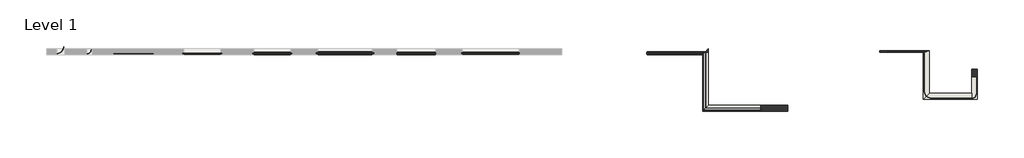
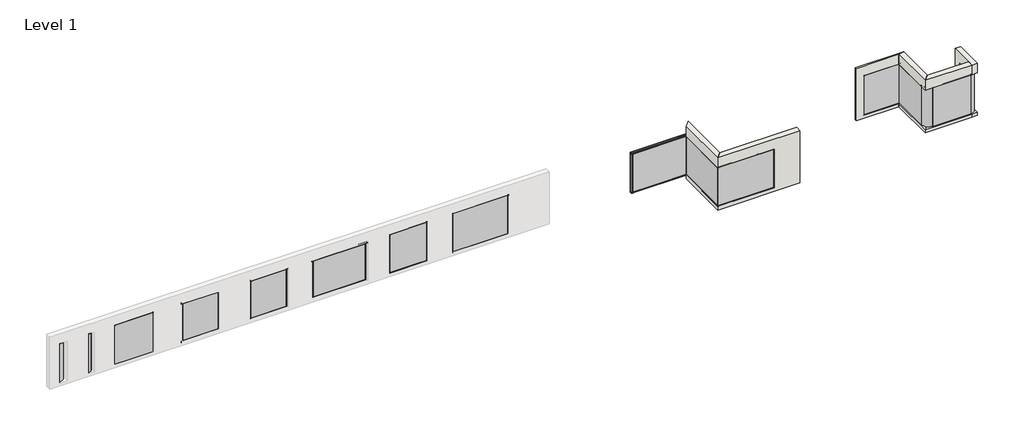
# One storey, part 2 of 2: 17 proxies, 6 walls.
"""IFC4 building model written with IfcOpenShell, lengths in millimetres."""

from ifc_helpers import new_model, si_unit, frame, origin, place, context, project, spatial, polyline, circle_curve, faceted_brep, transform, mapped, element, save
from ifc_brep_helpers import plane_surface, cylinder_surface, revolved_surface, advanced_brep
from components import specialty_equipment_907c0885, specialty_equipment_b6fd1aad, specialty_equipment_06bde316, specialty_equipment_94f7accb, specialty_equipment_4cefd5af, specialty_equipment_d6773d0d, specialty_equipment_c5b3c8d2, specialty_equipment_2e273301, specialty_equipment_d781054c, specialty_equipment_84c0f78b, specialty_equipment_ac06c7cd, specialty_equipment_aaa6b72d, radius_300_mm_c486e831, radius_440_mm_d872920d

model = new_model("IFC4")

# Units and contexts
model_context = context("Model", 3, world=origin())
ifc_project = project(units=[si_unit("LENGTHUNIT", "METRE", prefix="MILLI")], contexts=[model_context])

# Site, building, storey
site = spatial("IfcSite", under=ifc_project)
building = spatial("IfcBuilding", under=site)
storey = spatial("IfcBuildingStorey", under=building, Name="Level 1", Elevation=0.0)

# Proxies
placement = place(None, origin())
specialty_equipment_shape = specialty_equipment_907c0885(model_context)
element("IfcBuildingElementProxy", 1, Name="Specialy Equipment_Blindspace_Custom-Pockets-for-Roller-Blinds : 2400 mm x 2600 mm with Custom Box", ObjectType="Specialy Equipment_Blindspace_Custom-Pockets-for-Roller-Blinds : 2400 mm x 2600 mm with Custom Box", at=placement, inside=storey, context=model_context, shape_type="MappedRepresentation", body=[
    mapped(specialty_equipment_shape, transform((-20072.0824741, 7342.6185098, 1500.0), x_axis=(1.0, 0.0, 0.0), y_axis=(0.0, 0.0, 1.0), z_axis=(0.0, -1.0, 0.0))),
])
specialty_equipment_2_shape = specialty_equipment_b6fd1aad(model_context)
element("IfcBuildingElementProxy", 2, Name="Specialy Equipment_Blindspace_TrackTrim-Click-to-Recess-Curtain-Tracks-Straight-Track : 2400 mm x 2600 mm", ObjectType="Specialy Equipment_Blindspace_TrackTrim-Click-to-Recess-Curtain-Tracks-Straight-Track : 2400 mm x 2600 mm", at=placement, inside=storey, context=model_context, shape_type="MappedRepresentation", body=[
    mapped(specialty_equipment_2_shape, transform((-24172.0824741, 7342.6185098, 1500.0), x_axis=(1.0, 0.0, 0.0), y_axis=(0.0, 0.0, 1.0), z_axis=(0.0, -1.0, 0.0))),
])
specialty_equipment_3_shape = specialty_equipment_06bde316(model_context)
element("IfcBuildingElementProxy", 3, Name="Specialy Equipment_Blindspace_TrackTrim-Click-to-Recess-Curtain-Tracks-Straight-Track : 2400 mm x 2600 mm", ObjectType="Specialy Equipment_Blindspace_TrackTrim-Click-to-Recess-Curtain-Tracks-Straight-Track : 2400 mm x 2600 mm", at=placement, inside=storey, context=model_context, shape_type="MappedRepresentation", body=[
    mapped(specialty_equipment_3_shape, transform((22072.9175259, 7472.6185098, 1500.0), x_axis=(1.0, 0.0, 0.0), y_axis=(0.0, 0.0, 1.0), z_axis=(0.0, -1.0, 0.0))),
])
element("IfcBuildingElementProxy", 4, Name="Specialy Equipment_Blindspace_TrackTrim-Click-to-Recess-Curtain-Tracks-Straight-Track : 2400 mm x 2600 mm", ObjectType="Specialy Equipment_Blindspace_TrackTrim-Click-to-Recess-Curtain-Tracks-Straight-Track : 2400 mm x 2600 mm", at=placement, inside=storey, context=model_context, shape_type="MappedRepresentation", body=[
    mapped(specialty_equipment_2_shape, transform((24737.9175259, 4677.6185098, 1500.0), x_axis=(1.0, 0.0, 0.0), y_axis=(0.0, 0.0, 1.0), z_axis=(0.0, -1.0, 0.0))),
])
specialty_equipment_4_shape = specialty_equipment_94f7accb(model_context)
element("IfcBuildingElementProxy", 5, Name="Specialy Equipment_Blindspace_TrackTrim-Click-to-Recess-Curtain-Tracks-Straight-Track : 2400 mm x 2600 mm", ObjectType="Specialy Equipment_Blindspace_TrackTrim-Click-to-Recess-Curtain-Tracks-Straight-Track : 2400 mm x 2600 mm", at=placement, inside=storey, context=model_context, shape_type="MappedRepresentation", body=[
    mapped(specialty_equipment_4_shape, transform((23052.9175259, 6362.6185098, 1500.0), x_axis=(0.0, -1.0, 0.0), y_axis=(0.0, 0.0, 1.0), z_axis=(-1.0, 0.0, 0.0))),
])
specialty_equipment_5_shape = specialty_equipment_4cefd5af(model_context)
element("IfcBuildingElementProxy", 6, Name="Specialy Equipment_Blindspace_TrackTrim-Click-to-Recess-Curtain-Tracks-Straight-Track : 2400 mm x 2600 mm", ObjectType="Specialy Equipment_Blindspace_TrackTrim-Click-to-Recess-Curtain-Tracks-Straight-Track : 2400 mm x 2600 mm", at=placement, inside=storey, context=model_context, shape_type="MappedRepresentation", body=[
    mapped(specialty_equipment_5_shape, transform((26282.9175259, 5522.6185098, 1500.0), x_axis=(0.0, 1.0, 0.0), y_axis=(0.0, 0.0, 1.0), z_axis=(1.0, 0.0, 0.0))),
])
specialty_equipment_6_shape = specialty_equipment_d6773d0d(model_context)
element("IfcBuildingElementProxy", 7, Name="Specialy Equipment_Blindspace_Standard-Pockets-for-Roller-Blinds : 3500 mm x 2600 mm with 130 x 130 mm Box", ObjectType="Specialy Equipment_Blindspace_Standard-Pockets-for-Roller-Blinds : 3500 mm x 2600 mm with 130 x 130 mm Box", at=placement, inside=storey, context=model_context, shape_type="MappedRepresentation", body=[
    mapped(specialty_equipment_6_shape, transform((-2822.0824741, 7342.6185098, 1500.0), x_axis=(1.0, 0.0, 0.0), y_axis=(0.0, 0.0, 1.0), z_axis=(0.0, -1.0, 0.0))),
])
specialty_equipment_7_shape = specialty_equipment_c5b3c8d2(model_context)
element("IfcBuildingElementProxy", 8, Name="Specialy Equipment_Blindspace_Standard-Pockets-for-Roller-Blinds : 2400 mm x 2600 mm with 100 x 100 mm Box", ObjectType="Specialy Equipment_Blindspace_Standard-Pockets-for-Roller-Blinds : 2400 mm x 2600 mm with 100 x 100 mm Box", at=placement, inside=storey, context=model_context, shape_type="MappedRepresentation", body=[
    mapped(specialty_equipment_7_shape, transform((-7272.0824741, 7342.6185098, 1500.0), x_axis=(1.0, 0.0, 0.0), y_axis=(0.0, 0.0, 1.0), z_axis=(0.0, -1.0, 0.0))),
])
specialty_equipment_8_shape = specialty_equipment_2e273301(model_context)
element("IfcBuildingElementProxy", 9, Name="Specialy Equipment_Blindspace_Standard-Pockets-for-Roller-Blinds : 3500 mm x 2600 mm with 130 x 130 mm Box", ObjectType="Specialy Equipment_Blindspace_Standard-Pockets-for-Roller-Blinds : 3500 mm x 2600 mm with 130 x 130 mm Box", at=placement, inside=storey, context=model_context, shape_type="MappedRepresentation", body=[
    mapped(specialty_equipment_8_shape, transform((-11522.0824741, 7342.6185098, 1500.0), x_axis=(1.0, 0.0, 0.0), y_axis=(0.0, 0.0, 1.0), z_axis=(0.0, -1.0, 0.0))),
])
specialty_equipment_9_shape = specialty_equipment_d781054c(model_context)
element("IfcBuildingElementProxy", 10, Name="Specialy Equipment_Blindspace_Standard-Pockets-for-Roller-Blinds : 2400 mm x 2600 mm with 100 x 100 mm Box", ObjectType="Specialy Equipment_Blindspace_Standard-Pockets-for-Roller-Blinds : 2400 mm x 2600 mm with 100 x 100 mm Box", at=placement, inside=storey, context=model_context, shape_type="MappedRepresentation", body=[
    mapped(specialty_equipment_9_shape, transform((-15872.0824741, 7342.6185098, 1500.0), x_axis=(1.0, 0.0, 0.0), y_axis=(0.0, 0.0, 1.0), z_axis=(0.0, -1.0, 0.0))),
])
specialty_equipment_10_shape = specialty_equipment_84c0f78b(model_context)
element("IfcBuildingElementProxy", 11, Name="Specialy Equipment_Blindspace_Standard-Pockets-for-Roller-Blinds : 3500 mm x 2600 mm with 130 x 130 mm Box", ObjectType="Specialy Equipment_Blindspace_Standard-Pockets-for-Roller-Blinds : 3500 mm x 2600 mm with 130 x 130 mm Box", at=placement, inside=storey, context=model_context, shape_type="MappedRepresentation", body=[
    mapped(specialty_equipment_10_shape, transform((11627.9175259, 3972.6185098, 1500.0), x_axis=(1.0, 0.0, 0.0), y_axis=(0.0, 0.0, 1.0), z_axis=(0.0, -1.0, 0.0))),
])
specialty_equipment_11_shape = specialty_equipment_ac06c7cd(model_context)
element("IfcBuildingElementProxy", 12, Name="Specialy Equipment_Blindspace_Standard-Pockets-for-Roller-Blinds : 3500 mm x 2600 mm with 130 x 130 mm Box", ObjectType="Specialy Equipment_Blindspace_Standard-Pockets-for-Roller-Blinds : 3500 mm x 2600 mm with 130 x 130 mm Box", at=placement, inside=storey, context=model_context, shape_type="MappedRepresentation", body=[
    mapped(specialty_equipment_11_shape, transform((9852.9175259, 5747.6185098, 1500.0), x_axis=(0.0, -1.0, 0.0), y_axis=(0.0, 0.0, 1.0), z_axis=(-1.0, 0.0, 0.0))),
])
specialty_equipment_12_shape = specialty_equipment_aaa6b72d(model_context)
element("IfcBuildingElementProxy", 13, Name="Specialy Equipment_Blindspace_Standard-Pockets-for-Roller-Blinds : 3500 mm x 2600 mm with 130 x 130 mm Box", ObjectType="Specialy Equipment_Blindspace_Standard-Pockets-for-Roller-Blinds : 3500 mm x 2600 mm with 130 x 130 mm Box", at=placement, inside=storey, context=model_context, shape_type="MappedRepresentation", body=[
    mapped(specialty_equipment_12_shape, transform((8257.9386944, 7342.6185098, 1500.0), x_axis=(1.0, 0.0, 0.0), y_axis=(0.0, 0.0, 1.0), z_axis=(0.0, -1.0, 0.0))),
])
radius_300_mm_shape = radius_300_mm_c486e831(model_context)
element("IfcBuildingElementProxy", 14, Name="Specialy Equipment_Blindspace_TrackTrim-Click-to-Recess-Curtain-Tracks-90-Degree-Bend : Radius 300 mm", ObjectType="Specialy Equipment_Blindspace_TrackTrim-Click-to-Recess-Curtain-Tracks-90-Degree-Bend : Radius 300 mm", at=placement, inside=storey, context=model_context, shape_type="MappedRepresentation", body=[
    mapped(radius_300_mm_shape, transform((26110.4175259, 4677.6185098, 1500.0), x_axis=(1.0, 0.0, 0.0), y_axis=(0.0, 0.0, 1.0), z_axis=(0.0, -1.0, 0.0))),
])
element("IfcBuildingElementProxy", 15, Name="Specialy Equipment_Blindspace_TrackTrim-Click-to-Recess-Curtain-Tracks-90-Degree-Bend : Radius 300 mm", ObjectType="Specialy Equipment_Blindspace_TrackTrim-Click-to-Recess-Curtain-Tracks-90-Degree-Bend : Radius 300 mm", at=placement, inside=storey, context=model_context, shape_type="MappedRepresentation", body=[
    mapped(radius_300_mm_shape, transform((-26799.5824741, 7342.6185098, 1500.0), x_axis=(1.0, 0.0, 0.0), y_axis=(0.0, 0.0, 1.0), z_axis=(0.0, -1.0, 0.0))),
])
radius_440_mm_shape = radius_440_mm_d872920d(model_context)
element("IfcBuildingElementProxy", 16, Name="Specialy Equipment_Blindspace_TrackTrim-Click-to-Recess-Curtain-Tracks-90-Degree-Bend : Radius 440 mm", ObjectType="Specialy Equipment_Blindspace_TrackTrim-Click-to-Recess-Curtain-Tracks-90-Degree-Bend : Radius 440 mm", at=placement, inside=storey, context=model_context, shape_type="MappedRepresentation", body=[
    mapped(radius_440_mm_shape, transform((23052.9175259, 4920.1185098, 1500.0), x_axis=(0.0, -1.0, 0.0), y_axis=(0.0, 0.0, 1.0), z_axis=(-1.0, 0.0, 0.0))),
])
element("IfcBuildingElementProxy", 17, Name="Specialy Equipment_Blindspace_TrackTrim-Click-to-Recess-Curtain-Tracks-90-Degree-Bend : Radius 440 mm", ObjectType="Specialy Equipment_Blindspace_TrackTrim-Click-to-Recess-Curtain-Tracks-90-Degree-Bend : Radius 440 mm", at=placement, inside=storey, context=model_context, shape_type="MappedRepresentation", body=[
    mapped(radius_440_mm_shape, transform((-28529.5824741, 7342.6185098, 1500.0), x_axis=(1.0, 0.0, 0.0), y_axis=(0.0, 0.0, 1.0), z_axis=(0.0, -1.0, 0.0))),
])

# Walls
element("IfcWall", 18, ObjectType="Exterior - Brick on Mtl. Stud", at=placement, inside=storey, context=model_context, shape_type="Brep", body=[
    faceted_brep([(9852.9175259, 7342.6185098, 0.0), (9852.9175259, 3972.6185098, 0.0), (9852.9175259, 3972.6185098, 247.2480948), (9852.9175259, 3997.6185098, 247.2480948), (9852.9175259, 3997.6185098, 245.8), (9852.9175259, 7342.6185098, 245.8), (9852.9175259, 3972.6185098, 3397.25), (9852.9175259, 7342.6185098, 3397.25), (9852.9175259, 7342.6185098, 2754.2), (9852.9175259, 3997.6185098, 2754.2), (9852.9175259, 3997.6185098, 2752.7519052), (9852.9175259, 3972.6185098, 2752.7519052), (10202.9175259, 4322.6185098, 0.0), (10202.9175259, 7692.6185098, 0.0), (10202.9175259, 7692.6185098, 3397.25), (10202.9175259, 4322.6185098, 3397.25), (10202.9175259, 4322.6185098, 2754.2), (10202.9175259, 7497.6185098, 2754.2), (10202.9175259, 7497.6185098, 245.8), (10202.9175259, 4322.6185098, 245.8), (10007.9175259, 7497.6185098, 2754.2), (10007.9175259, 7497.6185098, 245.8), (9877.9175259, 3997.6185098, 2754.2), (9877.9175259, 3997.6185098, 2752.7519052), (9877.9175259, 3997.6185098, 245.8), (9877.9175259, 3997.6185098, 247.2480948), (9877.9175258, 3997.6185098, 2800.0), (9877.9175258, 7367.6185097, 2800.0), (10007.9175258, 7497.6185097, 2800.0), (10007.9175258, 4127.6185097, 2800.0), (10007.9175258, 4127.6185097, 2754.2), (10007.9175258, 4127.6185097, 245.8), (10007.9175258, 7497.6185097, 200.0), (10007.9175258, 4127.6185097, 200.0), (9877.9175258, 7367.6185097, 2754.2), (9877.9175258, 7367.6185097, 245.8), (9877.9175258, 3997.6185097, 200.0), (9877.9175258, 7367.6185097, 200.0)], [[[0, 1, 2, 3, 4, 5]], [[6, 7, 8, 9, 10, 11]], [[12, 13, 14, 15, 16, 17, 18, 19]], [[1, 0, 13, 12]], [[7, 6, 15, 14]], [[17, 20, 21, 18]], [[9, 22, 23, 10]], [[24, 4, 3, 25]], [[26, 27, 28, 29]], [[29, 28, 20, 30]], [[31, 21, 32, 33]], [[27, 26, 22, 34]], [[35, 24, 36, 37]], [[37, 36, 33, 32]], [[20, 17, 16, 30]], [[21, 31, 19, 18]], [[34, 22, 9, 8]], [[4, 24, 35, 5]], [[7, 14, 13, 0, 5, 35, 37, 32, 21, 20, 28, 27, 34, 8]], [[11, 10, 23]], [[3, 2, 25]], [[1, 12, 19, 31, 33, 36, 24, 25, 2]], [[15, 6, 11, 23, 22, 26, 29, 30, 16]]]),
])
element("IfcWall", 19, ObjectType="Exterior - Brick on Mtl. Stud", at=placement, inside=storey, context=model_context, shape_type="Brep", body=[
    faceted_brep([(9852.9175259, 3972.6185098, 0.0), (14927.9175259, 3972.6185098, 0.0), (14927.9175259, 3972.6185098, 3397.25), (9852.9175259, 3972.6185098, 3397.25), (9852.9175259, 3972.6185098, 2752.7519052), (9877.9175259, 3972.6185098, 2752.7519052), (9877.9175259, 3972.6185098, 2754.2), (13332.1175259, 3972.6185098, 2754.2), (13332.1175259, 3972.6185098, 245.8), (9877.9175259, 3972.6185098, 245.8), (9877.9175259, 3972.6185098, 247.2480948), (9852.9175259, 3972.6185098, 247.2480948), (14927.9175259, 4322.6185098, 0.0), (10202.9175259, 4322.6185098, 0.0), (10202.9175259, 4322.6185098, 245.8), (13332.1175259, 4322.6185098, 245.8), (13332.1175259, 4322.6185098, 2754.2), (10202.9175259, 4322.6185098, 2754.2), (10202.9175259, 4322.6185098, 3397.25), (14927.9175259, 4322.6185098, 3397.25), (9877.9175259, 3997.6185098, 2754.2), (9877.9175259, 3997.6185098, 2752.7519052), (9877.9175259, 3997.6185098, 245.8), (9877.9175259, 3997.6185098, 247.2480948), (13377.9175259, 3997.6185097, 2800.0), (13377.9175259, 4127.6185097, 2800.0), (13377.9175259, 4127.6185097, 200.0), (13377.9175259, 3997.6185097, 200.0), (9877.9175259, 3997.6185097, 2800.0), (10007.9175258, 4127.6185097, 2800.0), (10007.9175258, 4127.6185097, 2754.2), (13332.1175259, 4127.6185097, 2754.2), (13332.1175259, 4127.6185097, 245.8), (10007.9175258, 4127.6185097, 245.8), (10007.9175258, 4127.6185097, 200.0), (9877.9175259, 3997.6185097, 200.0), (13332.1175259, 3997.6185097, 245.8), (13332.1175259, 3997.6185097, 2754.2)], [[[0, 1, 2, 3, 4, 5, 6, 7, 8, 9, 10, 11]], [[12, 13, 14, 15, 16, 17, 18, 19]], [[1, 0, 13, 12]], [[2, 1, 12, 19]], [[3, 2, 19, 18]], [[20, 6, 5, 21]], [[9, 22, 23, 10]], [[24, 25, 26, 27]], [[25, 24, 28, 29]], [[26, 25, 29, 30, 31, 32, 33, 34]], [[24, 27, 35, 22, 36, 37, 20, 28]], [[27, 26, 34, 35]], [[31, 30, 17, 16]], [[33, 32, 15, 14]], [[32, 31, 16, 15]], [[20, 37, 7, 6]], [[36, 22, 9, 8]], [[37, 36, 8, 7]], [[11, 10, 23]], [[5, 4, 21]], [[13, 0, 11, 23, 22, 35, 34, 33, 14]], [[3, 18, 17, 30, 29, 28, 20, 21, 4]]]),
])
element("IfcWall", 20, ObjectType="Exterior - Brick on Mtl. Stud", at=placement, inside=storey, context=model_context, shape_type="SolidModel", body=[
    faceted_brep([(23052.9175259, 7472.6185098, 0.0), (23052.9175259, 4677.6185098, 0.0), (23052.9175259, 4677.6185098, 200.0), (23052.9175259, 7472.6185098, 200.0), (23402.9175259, 5027.6185098, 0.0), (23402.9175259, 7562.6185098, 0.0), (23402.9175259, 7562.6185098, 200.0), (23402.9175259, 5027.6185098, 200.0)], [[[0, 1, 2, 3]], [[4, 5, 6, 7]], [[1, 0, 5, 4]], [[1, 4, 7, 2]], [[5, 0, 3, 6]], [[2, 7, 6, 3]]]),
    advanced_brep(
    [(23052.9175259, 4677.6185098, 3397.25), (23052.9175259, 7472.6185098, 3397.25), (23052.9175259, 7472.6185098, 2774.5), (23052.9175259, 5131.4576369, 2774.5), (23052.9175259, 5131.4576369, 2770.0), (23052.9175259, 4677.6185098, 2770.0), (23402.9175259, 7562.6185098, 3397.25), (23402.9175259, 5027.6185098, 3397.25), (23402.9175259, 5027.6185098, 2770.0), (23402.9175259, 5162.6185098, 2770.0), (23402.9175259, 5162.6185098, 2774.5), (23402.9175259, 7562.6185098, 2774.5), (23194.2636302, 4818.9646142, 2770.0), (23194.2636302, 4818.9646142, 2774.5), (23212.2948531, 4836.9958371, 2774.5), (23212.2948531, 4836.9958371, 2800.0), (23241.2862312, 4865.9872151, 2800.0), (23241.2862312, 4865.9872151, 2774.5), (23258.6103473, 4883.3113312, 2774.5), (23258.6103473, 4883.3113312, 2770.0), (23378.6090626, 7556.3677621, 2774.5), (23378.6090626, 7556.3677621, 2800.0), (23272.9175259, 7529.1899384, 2800.0), (23104.3630243, 7485.8473523, 2800.0), (23066.1463683, 7476.0202122, 2800.0), (23066.1463683, 7476.0202122, 2774.5), (23066.1463683, 5162.6185098, 2774.5), (23066.1463683, 5162.6185098, 2800.0), (23077.4175259, 5162.6185098, 2800.0), (23077.4175259, 5162.6185098, 2774.5), (23118.4175259, 5162.6185098, 2800.0), (23378.6090626, 5162.6185098, 2800.0), (23378.6090626, 5162.6185098, 2774.5), (23142.9175259, 5162.6185098, 2770.0), (23142.9175259, 5162.6185098, 2774.5), (23118.4175259, 5162.6185098, 2774.5), (23077.4175259, 5112.6185098, 2774.5), (23080.1400144, 5112.6185098, 2774.5), (23080.1400144, 5112.6185098, 2800.0), (23077.4175259, 5112.6185098, 2800.0)],
    [
        (0, 1),
        (1, 2),
        (2, 3),
        (3, 4),
        (4, 5),
        (5, 0),
        (6, 7),
        (7, 8),
        (8, 9),
        (9, 10),
        (10, 11),
        (11, 6),
        (0, 7),
        (6, 1),
        (5, 12),
        (12, 13),
        (13, 14),
        (14, 15),
        (15, 16),
        (16, 17),
        (17, 18),
        (18, 19),
        (19, 8),
        (11, 20),
        (20, 21),
        (21, 22),
        (22, 23),
        (23, 24),
        (24, 25),
        (25, 2),
        (26, 27),
        (27, 28),
        (28, 29),
        (29, 26),
        (30, 31),
        (31, 32),
        (32, 10),
        (9, 33),
        (33, 34),
        (34, 35),
        (35, 30),
        (25, 26),
        (29, 36),
        (36, 37),
        (37, 14, circle_curve(frame((23537.9175259, 5162.6185098, 2774.5), z_axis=(0.0, 0.0, 1.0), x_axis=(-1.0, 0.0, 0.0)), 460.5)),
        (13, 3, circle_curve(frame((23537.9175259, 5162.6185098, 2774.5), z_axis=(0.0, 0.0, -1.0), x_axis=(-1.0, 0.0, 0.0)), 486.0)),
        (24, 27),
        (21, 31),
        (30, 16, circle_curve(frame((23537.9175259, 5162.6185098, 2800.0), z_axis=(0.0, 0.0, 1.0), x_axis=(-1.0, 0.0, 0.0)), 419.5)),
        (15, 38, circle_curve(frame((23537.9175259, 5162.6185098, 2800.0), z_axis=(0.0, 0.0, -1.0), x_axis=(-1.0, 0.0, 0.0)), 460.5)),
        (38, 39),
        (39, 28),
        (20, 32),
        (39, 36),
        (38, 37),
        (12, 4, circle_curve(frame((23537.9175259, 5162.6185098, 2770.0), z_axis=(0.0, 0.0, -1.0), x_axis=(-1.0, 0.0, 0.0)), 486.0)),
        (35, 17, circle_curve(frame((23537.9175259, 5162.6185098, 2774.5), z_axis=(0.0, 0.0, 1.0), x_axis=(-1.0, 0.0, 0.0)), 419.5)),
        (34, 18, circle_curve(frame((23537.9175259, 5162.6185098, 2774.5), z_axis=(0.0, 0.0, 1.0), x_axis=(-1.0, 0.0, 0.0)), 395.0)),
        (33, 19, circle_curve(frame((23537.9175259, 5162.6185098, 2770.0), z_axis=(0.0, 0.0, 1.0), x_axis=(-1.0, 0.0, 0.0)), 395.0)),
    ],
    [
        plane_surface(frame((23052.9175259, 7517.6185098, 0.0), z_axis=(-1.0, 0.0, 0.0), x_axis=(0.0, -1.0, 0.0))),
        plane_surface(frame((23402.9175259, 7517.6185098, 0.0), z_axis=(1.0, 0.0, 0.0), x_axis=(0.0, 1.0, 0.0))),
        plane_surface(frame((23052.9175259, 4852.6185098, 3397.25), z_axis=(0.0, 0.0, 1.0), x_axis=(1.0, 0.0, 0.0))),
        plane_surface(frame((23052.9175259, 4677.6185098, 0.0), z_axis=(0.707106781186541, -0.7071067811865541, 0.0), x_axis=(0.7071067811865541, 0.707106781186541, 0.0))),
        plane_surface(frame((23402.9175259, 7562.6185098, 0.0), z_axis=(-0.24904103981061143, 0.9684929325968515, 0.0), x_axis=(-0.9684929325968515, -0.24904103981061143, 0.0))),
        plane_surface(frame((23077.4175259, 5162.6185098, 2800.0), z_axis=(0.0, 1.0, 0.0), x_axis=(-1.0, 0.0, 0.0))),
        plane_surface(frame((23051.9175259, 7562.6185098, 2774.5), z_axis=(0.0, 0.0, -1.0), x_axis=(0.0, -1.0, 0.0))),
        plane_surface(frame((23066.1463683, 7562.6185098, 2774.5), z_axis=(1.0, 0.0, 0.0), x_axis=(0.0, -1.0, 0.0))),
        plane_surface(frame((23066.1463683, 7562.6185098, 2800.0), z_axis=(0.0, 0.0, -1.0), x_axis=(0.0, -1.0, 0.0))),
        plane_surface(frame((23378.6090626, 7562.6185098, 2800.0), z_axis=(-1.0, 0.0, 0.0), x_axis=(0.0, -1.0, 0.0))),
        plane_surface(frame((23378.6090626, 7562.6185098, 2774.5), z_axis=(0.0, 0.0, -1.0), x_axis=(0.0, -1.0, 0.0))),
        plane_surface(frame((23077.4175259, 5112.6185098, 200.0), z_axis=(1.0, 0.0, 0.0), x_axis=(0.0, 0.0, 1.0))),
        plane_surface(frame((23118.4175259, 5112.6185098, 200.0), z_axis=(0.0, 1.0, 0.0), x_axis=(0.0, 0.0, 1.0))),
        revolved_surface(polyline([(23051.9175259, 5162.6185098, 2774.5), (23051.9175259, 5162.6185098, 2770.0)]), (23537.9175259, 5162.6185098, 2800.0), (0.0, 0.0, 1.0)),
        revolved_surface(polyline([(23077.4175259, 5162.6185098, 2800.0), (23077.4175259, 5162.6185098, 2774.5)]), (23537.9175259, 5162.6185098, 2800.0), (0.0, 0.0, 1.0)),
        cylinder_surface(frame((23537.9175259, 5162.6185098, 2800.0), z_axis=(0.0, 0.0, 1.0), x_axis=(-1.0, 0.0, 0.0)), 419.5),
        plane_surface(frame((23537.9175259, 5162.6185098, 2774.5), z_axis=(0.0, 0.0, -1.0), x_axis=(-1.0, 0.0, 0.0))),
        cylinder_surface(frame((23537.9175259, 5162.6185098, 2800.0), z_axis=(0.0, 0.0, 1.0), x_axis=(-1.0, 0.0, 0.0)), 395.0),
        plane_surface(frame((23538.7175259, 5162.6185098, 2770.0), z_axis=(0.0, 0.0, -1.0), x_axis=(0.0, 1.0, 0.0))),
    ],
    [
        (0, [[1, 2, 3, 4, 5, 6]]),
        (1, [[7, 8, 9, 10, 11, 12]]),
        (2, [[-1, 13, -7, 14]]),
        (3, [[-13, -6, 15, 16, 17, 18, 19, 20, 21, 22, 23, -8]]),
        (4, [[-14, -12, 24, 25, 26, 27, 28, 29, 30, -2]]),
        (5, [[31, 32, 33, 34]]),
        (5, [[35, 36, 37, -10, 38, 39, 40, 41]]),
        (6, [[-30, 42, -34, 43, 44, 45, -17, 46, -3]]),
        (7, [[-31, -42, -29, 47]]),
        (8, [[-32, -47, -28, -27, -26, 48, -35, 49, -19, 50, 51, 52]]),
        (9, [[-36, -48, -25, 53]]),
        (10, [[-37, -53, -24, -11]]),
        (11, [[-52, 54, -43, -33]]),
        (12, [[-54, -51, 55, -44]]),
        (13, [[56, -4, -46, -16]]),
        (14, [[-55, -50, -18, -45]]),
        (15, [[-49, -41, 57, -20]]),
        (16, [[-57, -40, 58, -21]]),
        (17, [[-58, -39, 59, -22]]),
        (18, [[-56, -15, -5]]),
        (18, [[-59, -38, -9, -23]]),
    ],
),
])
element("IfcWall", 21, ObjectType="Exterior - Brick on Mtl. Stud", at=placement, inside=storey, context=model_context, shape_type="Brep", body=[
    faceted_brep([(23052.9175259, 4677.6185098, 0.0), (25932.9175259, 4677.6185098, 0.0), (25932.9175259, 4677.6185098, 200.0), (23052.9175259, 4677.6185098, 200.0), (25932.9175259, 5027.6185098, 0.0), (23402.9175259, 5027.6185098, 0.0), (23402.9175259, 5027.6185098, 200.0), (25932.9175259, 5027.6185098, 200.0)], [[[0, 1, 2, 3]], [[4, 5, 6, 7]], [[1, 0, 5, 4]], [[6, 3, 2, 7]], [[5, 0, 3, 6]], [[1, 4, 7, 2]]]),
    faceted_brep([(25932.9175259, 4677.6185098, 3397.25), (23052.9175259, 4677.6185098, 3397.25), (23052.9175259, 4677.6185098, 2774.5), (25932.9175259, 4677.6185098, 2774.5), (23402.9175259, 5027.6185098, 3397.25), (25932.9175259, 5027.6185098, 3397.25), (25932.9175259, 5027.6185098, 2774.5), (23402.9175259, 5027.6185098, 2774.5), (23194.2636302, 4818.9646142, 2774.5), (23212.2948531, 4836.9958371, 2774.5), (23241.2862312, 4865.9872151, 2774.5), (23258.6103473, 4883.3113312, 2774.5), (25932.9175259, 5003.3100466, 2774.5), (23537.9175259, 5003.3100466, 2774.5), (23537.9175259, 4690.8473523, 2774.5), (25932.9175259, 4690.8473523, 2774.5), (23537.9175259, 5003.3100466, 2800.0), (23537.9175259, 4743.1185098, 2800.0), (23537.9175259, 4702.1185098, 2800.0), (23537.9175259, 4690.8473523, 2800.0), (25932.9175259, 4690.8473523, 2800.0), (25932.9175259, 5003.3100466, 2800.0)], [[[0, 1, 2, 3]], [[4, 5, 6, 7]], [[1, 0, 5, 4]], [[2, 8, 9, 10, 11, 7, 6, 12, 13, 14, 15, 3]], [[1, 4, 7, 11, 10, 9, 8, 2]], [[13, 16, 17, 18, 19, 14]], [[15, 14, 19, 20]], [[17, 16, 21, 20, 19, 18]], [[16, 13, 12, 21]], [[5, 0, 3, 15, 20, 21, 12, 6]]]),
])
element("IfcWall", 22, ObjectType="Exterior - Brick on Mtl. Stud", at=placement, inside=storey, context=model_context, shape_type="Brep", body=[
    faceted_brep([(26282.9175259, 4677.6185098, 0.0), (26282.9175259, 6462.6185098, 0.0), (26282.9175259, 6462.6185098, 3397.25), (26282.9175259, 4677.6185098, 3397.25), (26282.9175259, 4677.6185098, 2774.5), (26282.9175259, 6022.6185098, 2774.5), (26282.9175259, 6022.6185098, 200.0), (26282.9175259, 4677.6185098, 200.0), (25932.9175259, 6462.6185098, 0.0), (25932.9175259, 5027.6185098, 0.0), (25932.9175259, 4677.6185098, 0.0), (25932.9175259, 4677.6185098, 200.0), (25932.9175259, 5027.6185098, 200.0), (25932.9175259, 6022.6185098, 200.0), (25932.9175259, 6022.6185098, 2774.5), (25932.9175259, 5027.6185098, 2774.5), (25932.9175259, 5003.3100466, 2774.5), (25932.9175259, 4690.8473523, 2774.5), (25932.9175259, 4677.6185098, 2774.5), (25932.9175259, 4677.6185098, 3397.25), (25932.9175259, 5027.6185098, 3397.25), (25932.9175259, 6462.6185098, 3397.25), (25957.2259891, 5022.6185098, 2774.5), (25957.2259891, 5022.6185098, 2800.0), (26217.4175259, 5022.6185098, 2800.0), (26258.4175259, 5022.6185098, 2800.0), (26269.6886834, 5022.6185098, 2800.0), (26269.6886834, 5022.6185098, 2774.5), (26269.6886834, 6022.6185098, 2774.5), (26269.6886834, 6022.6185098, 2800.0), (26258.4175259, 6022.6185098, 2800.0), (26217.4175259, 6022.6185098, 2800.0), (25957.2259891, 6022.6185098, 2800.0), (25957.2259891, 6022.6185098, 2774.5)], [[[0, 1, 2, 3, 4, 5, 6, 7]], [[8, 9, 10, 11, 12, 13, 14, 15, 16, 17, 18, 19, 20, 21]], [[1, 0, 10, 9, 8]], [[2, 1, 8, 21]], [[3, 2, 21, 20, 19]], [[22, 23, 24, 25, 26, 27]], [[13, 6, 5, 28, 29, 30, 31, 32, 33, 14]], [[28, 27, 26, 29]], [[24, 23, 32, 31, 30, 29, 26, 25]], [[23, 22, 33, 32]], [[4, 18, 17, 16, 15, 14, 33, 22, 27, 28, 5]], [[11, 7, 6, 13, 12]], [[10, 0, 7, 11]], [[3, 19, 18, 4]]]),
])
element("IfcWall", 23, ObjectType="Exterior - Brick on Mtl. Stud 2", at=placement, inside=storey, context=model_context, shape_type="Brep", body=[
    faceted_brep([(20427.9175259, 7472.6185098, 0.0), (23052.9175259, 7472.6185098, 0.0), (23052.9175259, 7472.6185098, 200.0), (20872.9175259, 7472.6185098, 200.0), (20872.9175259, 7472.6185098, 2774.5), (22731.95207, 7472.6185098, 2774.5), (22731.95207, 7472.6185098, 2777.25), (23052.9175259, 7472.6185098, 2777.25), (23052.9175259, 7472.6185098, 3397.25), (20427.9175259, 7472.6185098, 3397.25), (23402.9175259, 7562.6185098, 0.0), (20427.9175259, 7562.6185098, 0.0), (20427.9175259, 7562.6185098, 3397.25), (23402.9175259, 7562.6185098, 3397.25), (23402.9175259, 7562.6185098, 2777.25), (22731.95207, 7562.6185098, 2777.25), (22731.95207, 7562.6185098, 2774.5), (20872.9175259, 7562.6185098, 2774.5), (20872.9175259, 7562.6185098, 200.0), (23402.9175259, 7562.6185098, 200.0), (20872.9175259, 7538.3100466, 2774.5), (20872.9175259, 7538.3100466, 2800.0), (20872.9175259, 7538.1185098, 2800.0), (20872.9175259, 7497.1185098, 2800.0), (20872.9175259, 7485.8473523, 2800.0), (20872.9175259, 7485.8473523, 2774.5), (23272.9175259, 7538.1185098, 2800.0), (23272.9175259, 7538.3100466, 2800.0), (23272.9175259, 7538.3100466, 2777.25), (23272.9175259, 7529.1899384, 2777.25), (23272.9175259, 7529.1899384, 2800.0), (22731.95207, 7485.8473523, 2774.5), (23104.3630243, 7485.8473523, 2800.0), (23104.3630243, 7485.8473523, 2777.25), (22731.95207, 7485.8473523, 2777.25), (22731.95207, 7538.3100466, 2774.5), (22731.95207, 7538.3100466, 2777.25)], [[[0, 1, 2, 3, 4, 5, 6, 7, 8, 9]], [[10, 11, 12, 13, 14, 15, 16, 17, 18, 19]], [[1, 0, 11, 10]], [[9, 8, 13, 12]], [[0, 9, 12, 11]], [[17, 20, 21, 22, 23, 24, 25, 4, 3, 18]], [[26, 27, 28, 29, 30]], [[4, 25, 31, 5]], [[25, 24, 32, 33, 34, 31]], [[22, 21, 27, 26, 30, 32, 24, 23]], [[21, 20, 35, 36, 28, 27]], [[20, 17, 16, 35]], [[7, 6, 34, 33]], [[15, 14, 29, 28, 36]], [[3, 2, 19, 18]], [[6, 5, 31, 34]], [[16, 15, 36, 35]], [[1, 10, 19, 2]], [[13, 8, 7, 33, 32, 30, 29, 14]]]),
])

save(model, "model.ifc")
